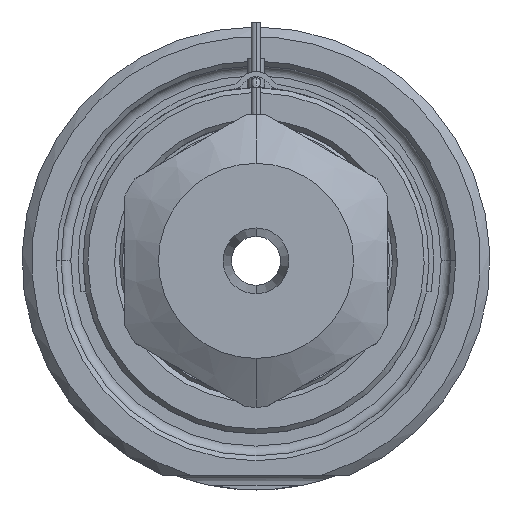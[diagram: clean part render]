
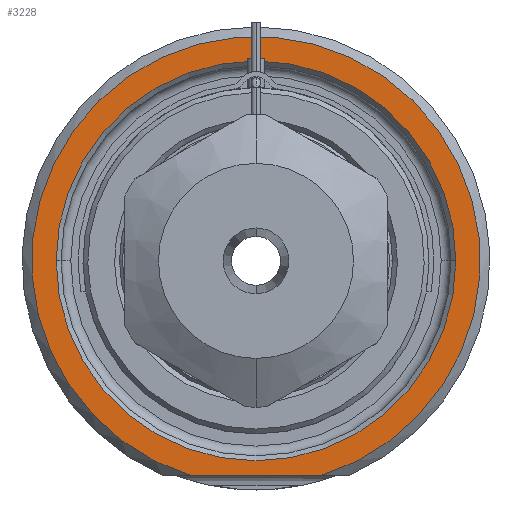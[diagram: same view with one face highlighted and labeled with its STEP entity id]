
A CAD part, front view. The second image highlights one B-rep face of the part: STEP entity #3228.
In plain terms, the highlighted planar face has unit normal (0, -1, 0).
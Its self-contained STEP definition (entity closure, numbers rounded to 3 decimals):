
#1=DIRECTION('',(1.,0.,0.));
#2=VECTOR('',#1,13.416);
#3=CARTESIAN_POINT('',(-6.708,0.,-22.));
#4=LINE('',#3,#2);
#5=CARTESIAN_POINT('',(0.,0.,0.));
#6=DIRECTION('',(0.,1.,0.));
#7=DIRECTION('',(-1.,0.,0.));
#8=AXIS2_PLACEMENT_3D('',#5,#6,#7);
#10=CARTESIAN_POINT('',(0.,0.,0.));
#11=DIRECTION('',(0.,1.,0.));
#12=DIRECTION('',(1.,0.,0.));
#13=AXIS2_PLACEMENT_3D('',#10,#11,#12);
#121=CARTESIAN_POINT('',(0.,0.,0.));
#122=DIRECTION('',(0.,-1.,0.));
#123=DIRECTION('',(0.292,0.,-0.957));
#124=AXIS2_PLACEMENT_3D('',#121,#122,#123);
#2677=CARTESIAN_POINT('',(-20.5,0.,0.));
#2678=CARTESIAN_POINT('',(20.5,0.,0.));
#2679=VERTEX_POINT('',#2677);
#2680=VERTEX_POINT('',#2678);
#2717=CARTESIAN_POINT('',(-6.708,0.,-22.));
#2718=CARTESIAN_POINT('',(6.708,0.,-22.));
#2719=VERTEX_POINT('',#2717);
#2720=VERTEX_POINT('',#2718);
#3211=CARTESIAN_POINT('',(0.,0.,0.));
#3212=DIRECTION('',(0.,-1.,0.));
#3213=DIRECTION('',(1.,0.,0.));
#3214=AXIS2_PLACEMENT_3D('',#3211,#3212,#3213);
#3215=PLANE('',#3214);
#3217=ORIENTED_EDGE('',*,*,#3216,.F.);
#3219=ORIENTED_EDGE('',*,*,#3218,.F.);
#3220=EDGE_LOOP('',(#3217,#3219));
#3221=FACE_OUTER_BOUND('',#3220,.F.);
#3223=ORIENTED_EDGE('',*,*,#3222,.F.);
#3225=ORIENTED_EDGE('',*,*,#3224,.F.);
#3226=EDGE_LOOP('',(#3223,#3225));
#3227=FACE_BOUND('',#3226,.F.);
#3228=ADVANCED_FACE('',(#3221,#3227),#3215,.T.);
#9=CIRCLE('',#8,20.5);
#14=CIRCLE('',#13,20.5);
#125=CIRCLE('',#124,23.);
#3216=EDGE_CURVE('',#2719,#2720,#4,.T.);
#3218=EDGE_CURVE('',#2720,#2719,#125,.T.);
#3222=EDGE_CURVE('',#2679,#2680,#9,.T.);
#3224=EDGE_CURVE('',#2680,#2679,#14,.T.);
